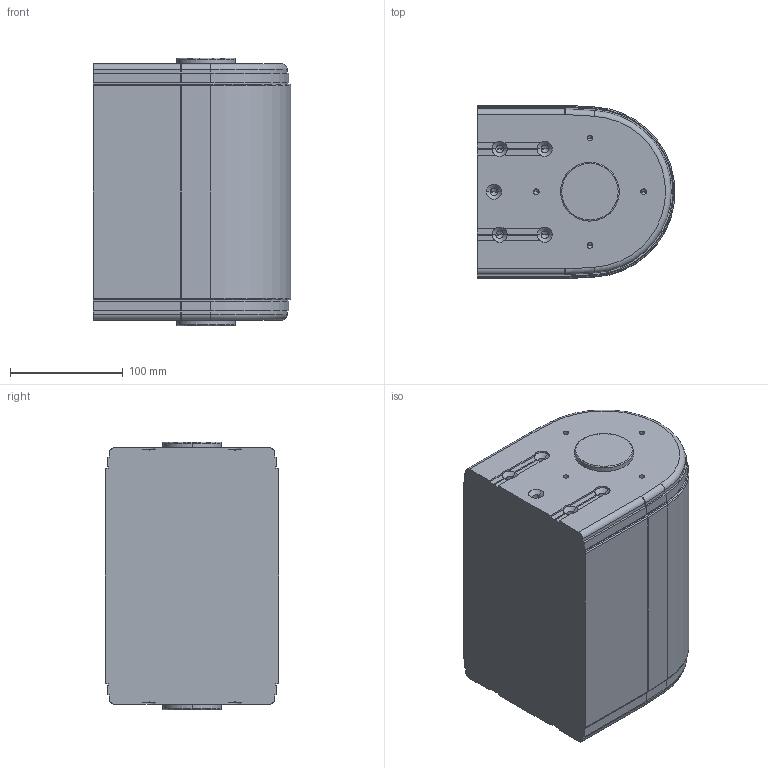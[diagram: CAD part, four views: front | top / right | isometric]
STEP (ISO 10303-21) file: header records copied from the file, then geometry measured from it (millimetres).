
FILE_DESCRIPTION (( 'STEP AP214' ), '1' );
FILE_NAME ('FABER - F2 750 RP.STEP', '2017-04-05T11:56:22', ( '' ), ( '' ), 'SwSTEP 2.0', 'SolidWorks 2016', '' );
FILE_SCHEMA (( 'AUTOMOTIVE_DESIGN' ));
Length unit declared in the file: millimetre
Products named in the file (1): FABER - F2 750 RP
Bounding box: 175.3 x 153.4 x 237 mm (x, y, z)
Volume: 5461321 mm3; surface area: 187574.5 mm2
Topology: 1 solids, 1 shells, 298 faces, 744 edges, 424 vertices
Faces by surface type: plane 131, cylinder 95, cone 56, torus 16
Entity records: 9715 total; most frequent: CARTESIAN_POINT 1665, DIRECTION 1482, ORIENTED_EDGE 1416, EDGE_CURVE 708, AXIS2_PLACEMENT_3D 553, VERTEX_POINT 424, LINE 376, VECTOR 376
